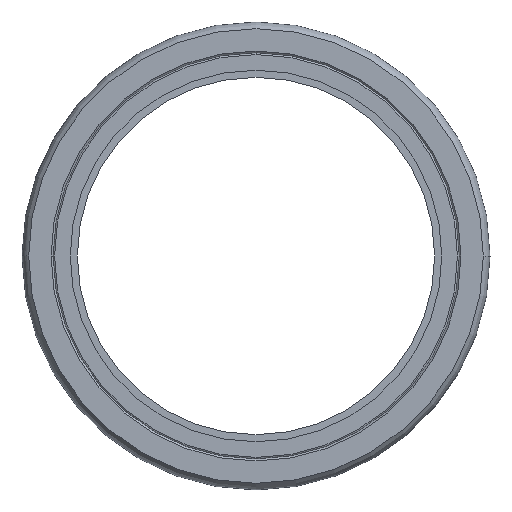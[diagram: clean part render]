
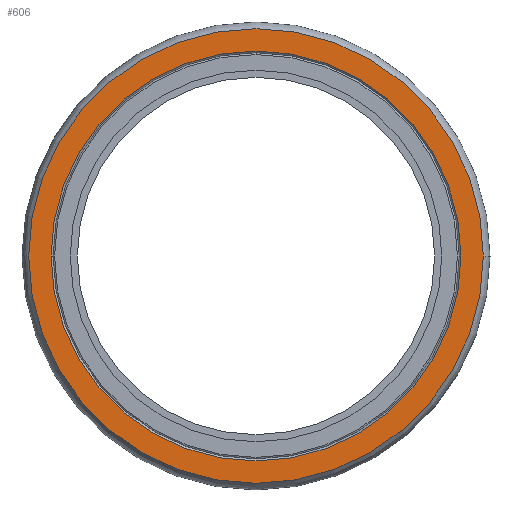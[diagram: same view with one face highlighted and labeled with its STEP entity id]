
A CAD part, left-side view. The second image highlights one B-rep face of the part: STEP entity #606.
In plain terms, the highlighted planar face has unit normal (-1, 0, 0).
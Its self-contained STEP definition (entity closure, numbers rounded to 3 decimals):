
#132=CARTESIAN_POINT('',(2.05,0.,0.));
#133=DIRECTION('',(-1.,0.,0.));
#134=DIRECTION('',(0.,-1.,0.));
#135=AXIS2_PLACEMENT_3D('',#132,#133,#134);
#142=CARTESIAN_POINT('',(2.05,0.,0.));
#143=DIRECTION('',(-1.,0.,0.));
#144=DIRECTION('',(0.,1.,0.));
#145=AXIS2_PLACEMENT_3D('',#142,#143,#144);
#152=CARTESIAN_POINT('',(2.05,0.,0.));
#153=DIRECTION('',(1.,0.,0.));
#154=DIRECTION('',(0.,1.,0.));
#155=AXIS2_PLACEMENT_3D('',#152,#153,#154);
#174=CARTESIAN_POINT('',(2.05,0.,0.));
#175=DIRECTION('',(1.,0.,0.));
#176=DIRECTION('',(0.,-1.,0.));
#177=AXIS2_PLACEMENT_3D('',#174,#175,#176);
#342=CARTESIAN_POINT('',(2.05,31.814,0.));
#343=CARTESIAN_POINT('',(2.05,-31.814,0.));
#344=VERTEX_POINT('',#342);
#345=VERTEX_POINT('',#343);
#346=CARTESIAN_POINT('',(2.05,-28.686,0.));
#347=CARTESIAN_POINT('',(2.05,28.686,0.));
#348=VERTEX_POINT('',#346);
#349=VERTEX_POINT('',#347);
#591=CARTESIAN_POINT('',(2.05,0.,0.));
#592=DIRECTION('',(-1.,0.,0.));
#593=DIRECTION('',(0.,1.,0.));
#594=AXIS2_PLACEMENT_3D('',#591,#592,#593);
#595=PLANE('',#594);
#597=ORIENTED_EDGE('',*,*,#596,.T.);
#599=ORIENTED_EDGE('',*,*,#598,.T.);
#600=EDGE_LOOP('',(#597,#599));
#601=FACE_OUTER_BOUND('',#600,.F.);
#602=ORIENTED_EDGE('',*,*,#548,.T.);
#603=ORIENTED_EDGE('',*,*,#578,.T.);
#604=EDGE_LOOP('',(#602,#603));
#605=FACE_BOUND('',#604,.F.);
#136=CIRCLE('',#135,28.686);
#146=CIRCLE('',#145,28.686);
#156=CIRCLE('',#155,31.814);
#178=CIRCLE('',#177,31.814);
#548=EDGE_CURVE('',#348,#349,#136,.T.);
#578=EDGE_CURVE('',#349,#348,#146,.T.);
#596=EDGE_CURVE('',#344,#345,#156,.T.);
#598=EDGE_CURVE('',#345,#344,#178,.T.);
#606=ADVANCED_FACE('',(#601,#605),#595,.T.);
